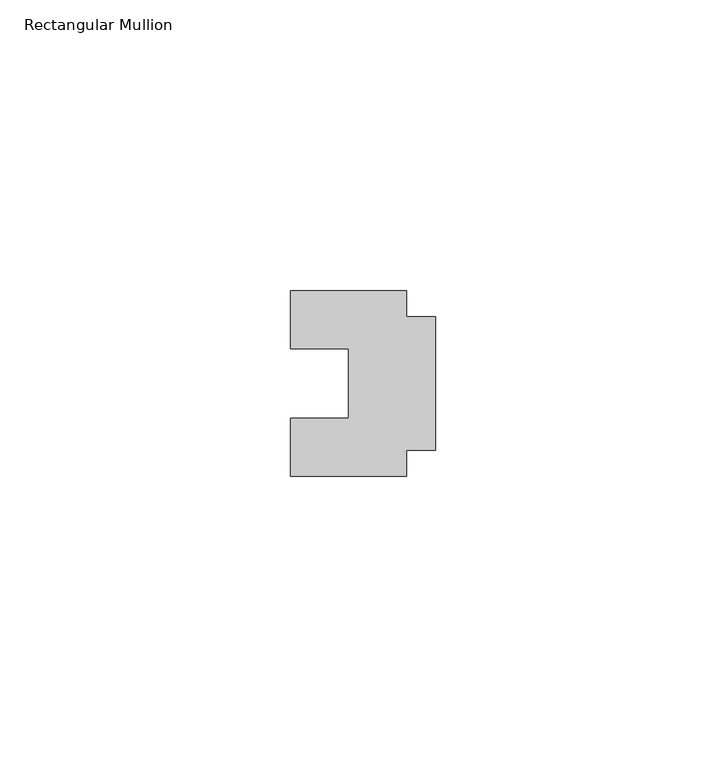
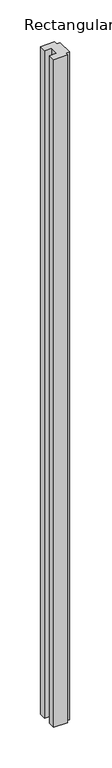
"""IFC4 building model written with IfcOpenShell, lengths in millimetres: member geometry, Rectangular Mullion : Klein_Nature_Profile-Bottom-Panel."""

from ifc_helpers import new_model, si_unit, frame, origin, place, context, project, spatial, polyline, outline, extrude, source, transform, mapped, element, save


def rectangular_mullion_19e2d427(model_context):
    return source(origin(), model_context, "Body", "SweptSolid", [
        extrude(outline(polyline([(-25.0, 4.3), (-25.0, 14.3), (-15.0, 14.3), (-15.0, 26.3), (-25.0, 26.3), (-25.0, 36.3), (-5.0, 36.3), (-5.0, 31.8), (0.0, 31.8), (0.0, 8.8), (-5.0, 8.8), (-5.0, 4.3), (-25.0, 4.3)])), frame((0.0, 0.0, -1000.0000002), z_axis=(0.0, 0.0, 1.0), x_axis=(1.0, 0.0, 0.0)), (0.0, 0.0, 1.0), 1000.0000002),
    ])


if __name__ == "__main__":
    model = new_model("IFC4")
    model_context = context("Model", 3, world=origin())
    ifc_project = project(units=[si_unit("LENGTHUNIT", "METRE", prefix="MILLI")], contexts=[model_context])
    site = spatial("IfcSite", under=ifc_project)
    building = spatial("IfcBuilding", under=site)
    placement = place(None, origin())
    rectangular_mullion_shape = rectangular_mullion_19e2d427(model_context)
    element("IfcMember", 1, ObjectType="Rectangular Mullion : Klein_Nature_Profile-Bottom-Panel", at=placement, inside=building, context=model_context, shape_type="MappedRepresentation", body=[
        mapped(rectangular_mullion_shape, transform((0.0, 0.0, 0.0), x_axis=(1.0, 0.0, 0.0), y_axis=(0.0, 1.0, 0.0), z_axis=(0.0, 0.0, 1.0))),
    ])
    save(model, "model.ifc")
